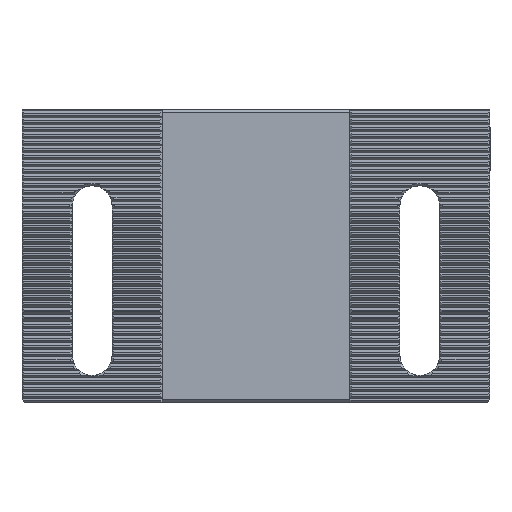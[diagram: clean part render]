
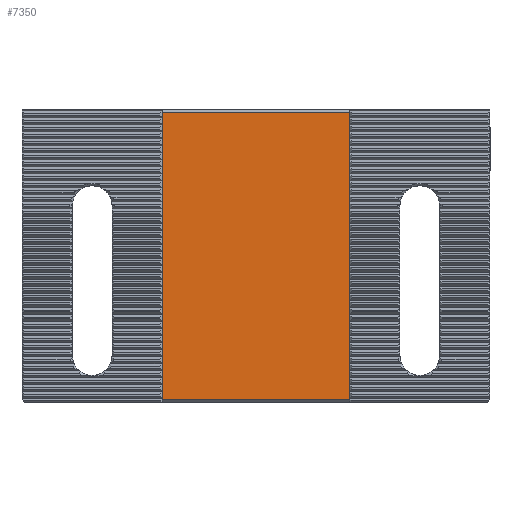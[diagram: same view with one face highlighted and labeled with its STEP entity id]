
A CAD part, front view. The second image highlights one B-rep face of the part: STEP entity #7350.
In plain terms, the highlighted planar face has unit normal (0, -1, 0).
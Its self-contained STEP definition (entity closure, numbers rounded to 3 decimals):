
#695 = EDGE_CURVE ( 'NONE', #16728, #6351, #11572, .T. ) ;
#956 = VECTOR ( 'NONE', #18756, 1000. ) ;
#1017 = EDGE_LOOP ( 'NONE', ( #3553, #13088, #11130, #10897 ) ) ;
#1415 = CARTESIAN_POINT ( 'NONE',  ( -20.062, 3., -0.5 ) ) ;
#1982 = EDGE_CURVE ( 'NONE', #5248, #13188, #18474, .T. ) ;
#2615 = CARTESIAN_POINT ( 'NONE',  ( -20.063, 3., -62.5 ) ) ;
#3553 = ORIENTED_EDGE ( 'NONE', *, *, #695, .F. ) ;
#5248 = VERTEX_POINT ( 'NONE', #17093 ) ;
#6351 = VERTEX_POINT ( 'NONE', #9399 ) ;
#7305 = VECTOR ( 'NONE', #27784, 1000. ) ;
#7350 = ADVANCED_FACE ( 'NONE', ( #24068 ), #10438, .F. ) ;
#8032 = EDGE_CURVE ( 'NONE', #13188, #6351, #8303, .T. ) ;
#8303 = LINE ( 'NONE', #1415, #12444 ) ;
#9399 = CARTESIAN_POINT ( 'NONE',  ( -20.062, 3., -0.5 ) ) ;
#10379 = DIRECTION ( 'NONE',  ( -1., 0., 0. ) ) ;
#10438 = PLANE ( 'NONE',  #17086 ) ;
#10897 = ORIENTED_EDGE ( 'NONE', *, *, #8032, .T. ) ;
#11130 = ORIENTED_EDGE ( 'NONE', *, *, #1982, .T. ) ;
#11572 = LINE ( 'NONE', #2615, #28552 ) ;
#12444 = VECTOR ( 'NONE', #10379, 1000. ) ;
#12630 = DIRECTION ( 'NONE',  ( 0., 0., 1. ) ) ;
#12641 = LINE ( 'NONE', #23941, #7305 ) ;
#13088 = ORIENTED_EDGE ( 'NONE', *, *, #14009, .T. ) ;
#13188 = VERTEX_POINT ( 'NONE', #23344 ) ;
#14009 = EDGE_CURVE ( 'NONE', #16728, #5248, #12641, .T. ) ;
#15512 = CARTESIAN_POINT ( 'NONE',  ( -20.063, 3., -62. ) ) ;
#16420 = CARTESIAN_POINT ( 'NONE',  ( 20.063, 3., -62.5 ) ) ;
#16728 = VERTEX_POINT ( 'NONE', #15512 ) ;
#17037 = DIRECTION ( 'NONE',  ( 0., 1., 0. ) ) ;
#17086 = AXIS2_PLACEMENT_3D ( 'NONE', #22169, #17037, #12630 ) ;
#17093 = CARTESIAN_POINT ( 'NONE',  ( 20.063, 3., -62. ) ) ;
#18020 = DIRECTION ( 'NONE',  ( 0., 0., 1. ) ) ;
#18474 = LINE ( 'NONE', #16420, #956 ) ;
#18756 = DIRECTION ( 'NONE',  ( 0., 0., 1. ) ) ;
#22169 = CARTESIAN_POINT ( 'NONE',  ( -20.063, 3., -62.5 ) ) ;
#23344 = CARTESIAN_POINT ( 'NONE',  ( 20.063, 3., -0.5 ) ) ;
#23941 = CARTESIAN_POINT ( 'NONE',  ( -20.063, 3., -62. ) ) ;
#24068 = FACE_OUTER_BOUND ( 'NONE', #1017, .T. ) ;
#27784 = DIRECTION ( 'NONE',  ( 1., 0., 0. ) ) ;
#28552 = VECTOR ( 'NONE', #18020, 1000. ) ;
